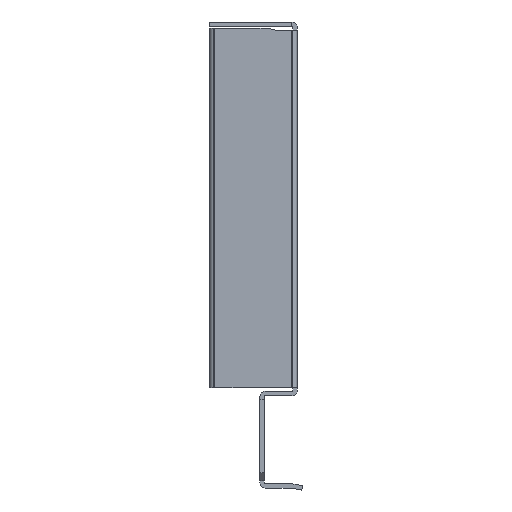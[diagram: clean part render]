
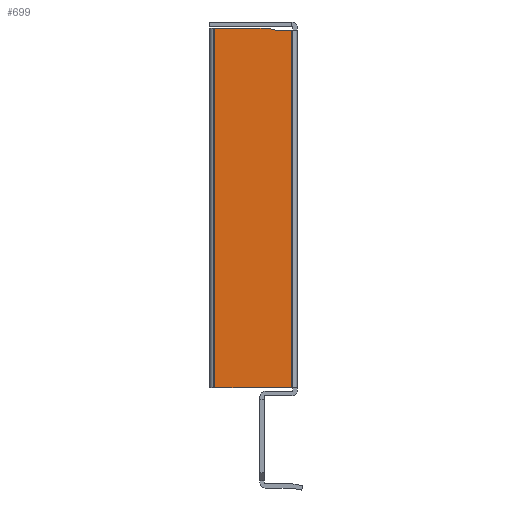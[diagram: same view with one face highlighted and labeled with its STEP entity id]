
A CAD part, left-side view. The second image highlights one B-rep face of the part: STEP entity #699.
In plain terms, the highlighted planar face has unit normal (-1, 0, 0).
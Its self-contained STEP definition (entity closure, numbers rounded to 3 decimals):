
#123 = DIRECTION ( 'NONE',  ( 0., -1., 0. ) ) ;
#124 = DIRECTION ( 'NONE',  ( -1., 0., 0. ) ) ;
#126 = CARTESIAN_POINT ( 'NONE',  ( -355., -5., 101.385 ) ) ;
#127 = PLANE ( 'NONE',  #1212 ) ;
#243 = VERTEX_POINT ( 'NONE', #431 ) ;
#334 = VERTEX_POINT ( 'NONE', #405 ) ;
#348 = CARTESIAN_POINT ( 'NONE',  ( -355., 9., 82.9 ) ) ;
#373 = CARTESIAN_POINT ( 'NONE',  ( -355., -5., 17.5 ) ) ;
#385 = CARTESIAN_POINT ( 'NONE',  ( -355., -2., 82.5 ) ) ;
#388 = CARTESIAN_POINT ( 'NONE',  ( -355., -5., 82.5 ) ) ;
#405 = CARTESIAN_POINT ( 'NONE',  ( -355., -0.507, 82.9 ) ) ;
#431 = CARTESIAN_POINT ( 'NONE',  ( -355., 9., 17.5 ) ) ;
#527 = VERTEX_POINT ( 'NONE', #388 ) ;
#530 = VERTEX_POINT ( 'NONE', #385 ) ;
#542 = VERTEX_POINT ( 'NONE', #373 ) ;
#567 = VERTEX_POINT ( 'NONE', #348 ) ;
#699 = ADVANCED_FACE ( 'NONE', ( #2053 ), #127, .T. ) ;
#983 = EDGE_LOOP ( 'NONE', ( #1890, #1891, #1892, #1893, #1894, #1895 ) ) ;
#1017 = EDGE_CURVE ( 'NONE', #542, #243, #2164, .T. ) ;
#1212 = AXIS2_PLACEMENT_3D ( 'NONE', #126, #124, #123 ) ;
#1304 = EDGE_CURVE ( 'NONE', #334, #567, #2231, .T. ) ;
#1313 = EDGE_CURVE ( 'NONE', #567, #243, #2244, .T. ) ;
#1314 = EDGE_CURVE ( 'NONE', #530, #527, #2247, .T. ) ;
#1316 = EDGE_CURVE ( 'NONE', #334, #530, #2249, .T. ) ;
#1317 = EDGE_CURVE ( 'NONE', #527, #542, #2251, .T. ) ;
#1359 = DIRECTION ( 'NONE',  ( 0., 0., -1. ) ) ;
#1362 = CARTESIAN_POINT ( 'NONE',  ( -355., -5., 101.385 ) ) ;
#1364 = DIRECTION ( 'NONE',  ( 0., -0.966, -0.259 ) ) ;
#1365 = CARTESIAN_POINT ( 'NONE',  ( -355., 0.612, 83.2 ) ) ;
#1366 = DIRECTION ( 'NONE',  ( 0., -1., 0. ) ) ;
#1367 = CARTESIAN_POINT ( 'NONE',  ( -355., -2., 82.5 ) ) ;
#1370 = DIRECTION ( 'NONE',  ( 0., 0., -1. ) ) ;
#1371 = CARTESIAN_POINT ( 'NONE',  ( -355., 9., 101.385 ) ) ;
#1376 = DIRECTION ( 'NONE',  ( 0., 1., 0. ) ) ;
#1380 = CARTESIAN_POINT ( 'NONE',  ( -355., -5., 82.9 ) ) ;
#1506 = DIRECTION ( 'NONE',  ( 0., 1., 0. ) ) ;
#1507 = CARTESIAN_POINT ( 'NONE',  ( -355., -5., 17.5 ) ) ;
#1890 = ORIENTED_EDGE ( 'NONE', *, *, #1314, .F. ) ;
#1891 = ORIENTED_EDGE ( 'NONE', *, *, #1316, .F. ) ;
#1892 = ORIENTED_EDGE ( 'NONE', *, *, #1304, .T. ) ;
#1893 = ORIENTED_EDGE ( 'NONE', *, *, #1313, .T. ) ;
#1894 = ORIENTED_EDGE ( 'NONE', *, *, #1017, .F. ) ;
#1895 = ORIENTED_EDGE ( 'NONE', *, *, #1317, .F. ) ;
#2053 = FACE_OUTER_BOUND ( 'NONE', #983, .T. ) ;
#2164 = LINE ( 'NONE', #1507, #2166 ) ;
#2166 = VECTOR ( 'NONE', #1506, 1000. ) ;
#2231 = LINE ( 'NONE', #1380, #2232 ) ;
#2232 = VECTOR ( 'NONE', #1376, 1000. ) ;
#2244 = LINE ( 'NONE', #1371, #2246 ) ;
#2246 = VECTOR ( 'NONE', #1370, 1000. ) ;
#2247 = LINE ( 'NONE', #1367, #2248 ) ;
#2248 = VECTOR ( 'NONE', #1366, 1000. ) ;
#2249 = LINE ( 'NONE', #1365, #2250 ) ;
#2250 = VECTOR ( 'NONE', #1364, 1000. ) ;
#2251 = LINE ( 'NONE', #1362, #2252 ) ;
#2252 = VECTOR ( 'NONE', #1359, 1000. ) ;
